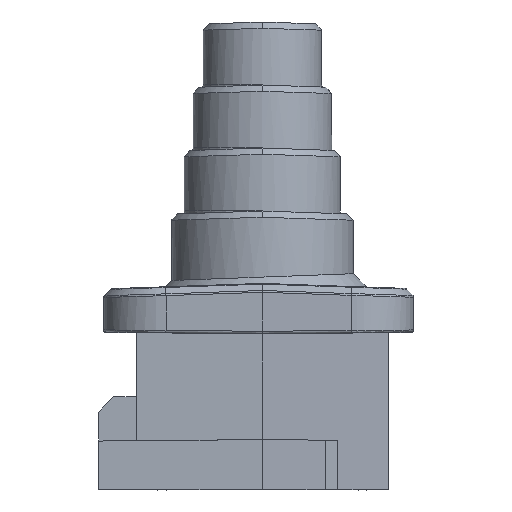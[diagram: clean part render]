
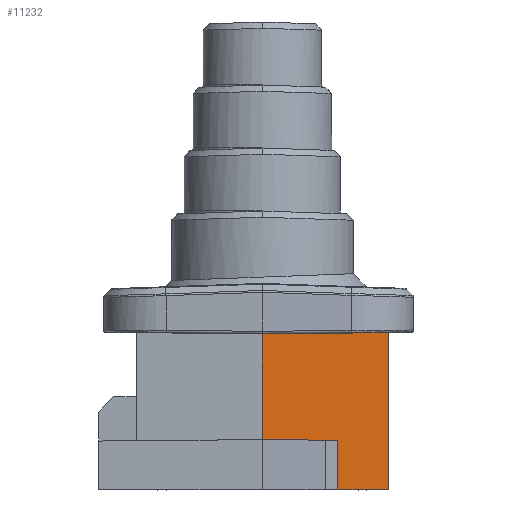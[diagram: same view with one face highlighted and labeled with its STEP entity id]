
A CAD part, front view. The second image highlights one B-rep face of the part: STEP entity #11232.
In plain terms, the highlighted planar face has unit normal (0.009, -1, 0).
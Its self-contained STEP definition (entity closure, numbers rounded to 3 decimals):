
#193=DIRECTION('',(-1.,-0.009,-0.009));
#194=VECTOR('',#193,5.);
#195=CARTESIAN_POINT('',(5.5,-12.296,0.044));
#196=LINE('',#195,#194);
#1365=DIRECTION('',(-1.,-0.009,0.));
#1366=VECTOR('',#1365,2.);
#1367=CARTESIAN_POINT('',(5.5,-12.296,-6.2));
#1368=LINE('',#1367,#1366);
#1671=DIRECTION('',(-1.,-0.009,0.009));
#1672=VECTOR('',#1671,3.);
#1673=CARTESIAN_POINT('',(3.5,-12.314,-4.226));
#1674=LINE('',#1673,#1672);
#1678=DIRECTION('',(0.,0.,-1.));
#1679=VECTOR('',#1678,4.2);
#1680=CARTESIAN_POINT('',(0.5,-12.34,0.));
#1681=LINE('',#1680,#1679);
#1685=DIRECTION('',(0.,0.,-1.));
#1686=VECTOR('',#1685,6.244);
#1687=CARTESIAN_POINT('',(5.5,-12.296,0.044));
#1688=LINE('',#1687,#1686);
#1692=DIRECTION('',(0.,0.,1.));
#1693=VECTOR('',#1692,1.974);
#1694=CARTESIAN_POINT('',(3.5,-12.314,-6.2));
#1695=LINE('',#1694,#1693);
#9252=CARTESIAN_POINT('',(5.5,-12.296,0.044));
#9254=VERTEX_POINT('',#9252);
#9255=CARTESIAN_POINT('',(5.5,-12.296,-6.2));
#9256=VERTEX_POINT('',#9255);
#9283=CARTESIAN_POINT('',(3.5,-12.314,-6.2));
#9284=CARTESIAN_POINT('',(3.5,-12.314,-4.226));
#9285=VERTEX_POINT('',#9283);
#9286=VERTEX_POINT('',#9284);
#9291=CARTESIAN_POINT('',(0.5,-12.34,0.));
#9292=VERTEX_POINT('',#9291);
#9297=CARTESIAN_POINT('',(0.5,-12.34,-4.2));
#9298=VERTEX_POINT('',#9297);
#11218=CARTESIAN_POINT('',(0.5,-12.34,0.));
#11219=DIRECTION('',(0.009,-1.,0.));
#11220=DIRECTION('',(0.,0.,-1.));
#11221=AXIS2_PLACEMENT_3D('',#11218,#11219,#11220);
#11222=PLANE('',#11221);
#11223=ORIENTED_EDGE('',*,*,#10915,.T.);
#11224=ORIENTED_EDGE('',*,*,#10505,.F.);
#11225=ORIENTED_EDGE('',*,*,#10103,.F.);
#11227=ORIENTED_EDGE('',*,*,#11226,.T.);
#11228=ORIENTED_EDGE('',*,*,#11046,.T.);
#11229=ORIENTED_EDGE('',*,*,#11212,.T.);
#11230=EDGE_LOOP('',(#11223,#11224,#11225,#11227,#11228,#11229));
#11231=FACE_OUTER_BOUND('',#11230,.F.);
#11232=ADVANCED_FACE('',(#11231),#11222,.T.);
#10103=EDGE_CURVE('',#9254,#9292,#196,.T.);
#10505=EDGE_CURVE('',#9292,#9298,#1681,.T.);
#10915=EDGE_CURVE('',#9286,#9298,#1674,.T.);
#11046=EDGE_CURVE('',#9256,#9285,#1368,.T.);
#11212=EDGE_CURVE('',#9285,#9286,#1695,.T.);
#11226=EDGE_CURVE('',#9254,#9256,#1688,.T.);
